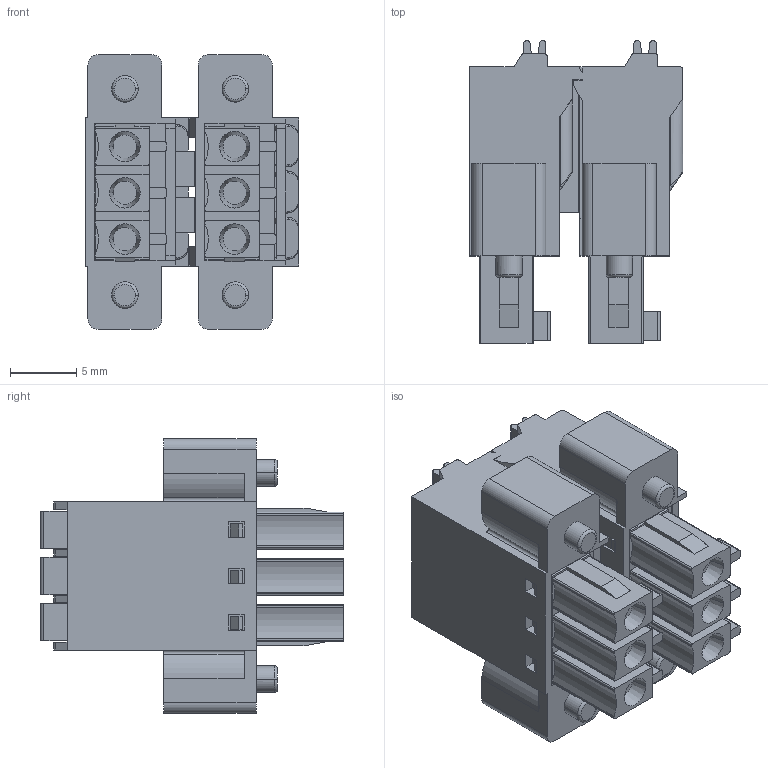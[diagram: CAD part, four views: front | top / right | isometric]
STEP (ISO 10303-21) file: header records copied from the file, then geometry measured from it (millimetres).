
FILE_DESCRIPTION((''),'2;1');
FILE_NAME('333','2019-04-11T',('zhenbing.lai'),(''),'CREO PARAMETRIC BY PTC INC, 2016260','CREO PARAMETRIC BY PTC INC, 2016260','');
FILE_SCHEMA(('CONFIG_CONTROL_DESIGN'));
Length unit declared in the file: millimetre
Products named in the file (1): 333
Bounding box: 16.15 x 22.9 x 20.8 mm (x, y, z)
Volume: 3287.5 mm3; surface area: 4181.8 mm2
Topology: 1 solids, 13 shells, 1124 faces, 3160 edges, 2076 vertices
Faces by surface type: plane 783, cylinder 253, bspline 32, cone 32, torus 16, sphere 8
Entity records: 38629 total; most frequent: CARTESIAN_POINT 9420, ORIENTED_EDGE 6304, DIRECTION 5738, EDGE_CURVE 3152, VECTOR 2328, LINE 2328, VERTEX_POINT 2076, AXIS2_PLACEMENT_3D 1705
